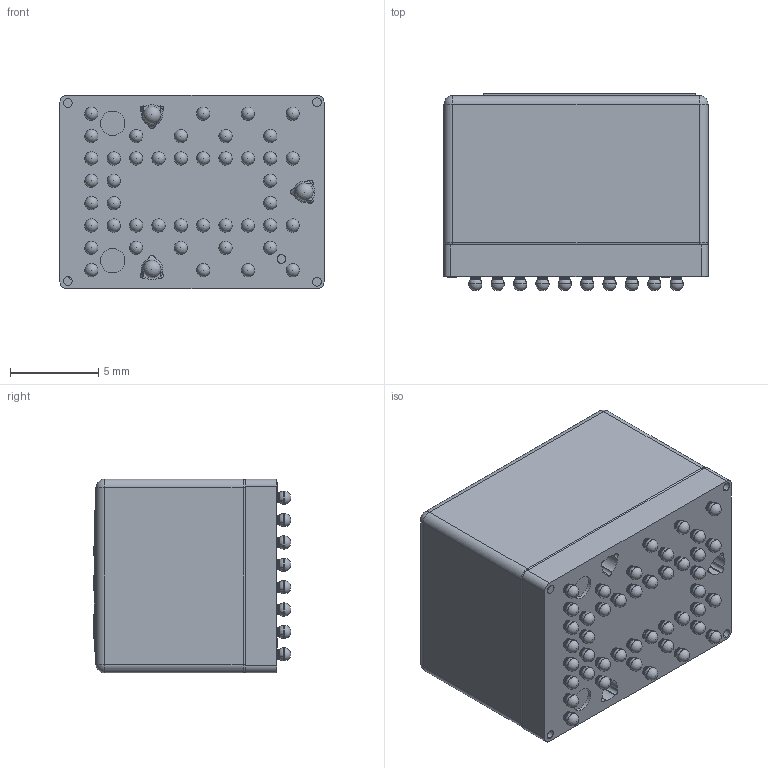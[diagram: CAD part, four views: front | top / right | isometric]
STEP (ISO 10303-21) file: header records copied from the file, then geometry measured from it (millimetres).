
FILE_DESCRIPTION (( 'STEP AP214' ), '1' );
FILE_NAME ('ADIS16470AMLZ.STEP', '2017-10-13T19:08:46', ( '' ), ( '' ), 'SwSTEP 2.0', 'SolidWorks 2016', '' );
FILE_SCHEMA (( 'AUTOMOTIVE_DESIGN' ));
Length unit declared in the file: millimetre
Products named in the file (8): 4470 adhesive; horizontal with vertical b; ball 2; horizontal minus vertical; horizontal brd bga new pattern 127 040716; ADIS16470AMLZ; lABEL-2; Cover GS10909
Assembly tree (50 placements, depth 4):
  ADIS16470AMLZ
    horizontal with vertical b
      horizontal minus vertical
        horizontal brd bga new pattern 127 040716
        ball 2  x44
    4470 adhesive
    Cover GS10909
    lABEL-2
Bounding box: 15 x 11.21 x 11 mm (x, y, z)
Volume: 621.6 mm3; surface area: 1975.5 mm2
Topology: 95 solids, 95 shells, 1392 faces, 3224 edges, 2004 vertices
Faces by surface type: plane 580, cylinder 401, torus 192, bspline 164, sphere 55
Entity records: 40054 total; most frequent: CARTESIAN_POINT 12954, ORIENTED_EDGE 4578, DIRECTION 4172, EDGE_CURVE 2289, VERTEX_POINT 1480, LINE 1472, VECTOR 1472, AXIS2_PLACEMENT_3D 1350
